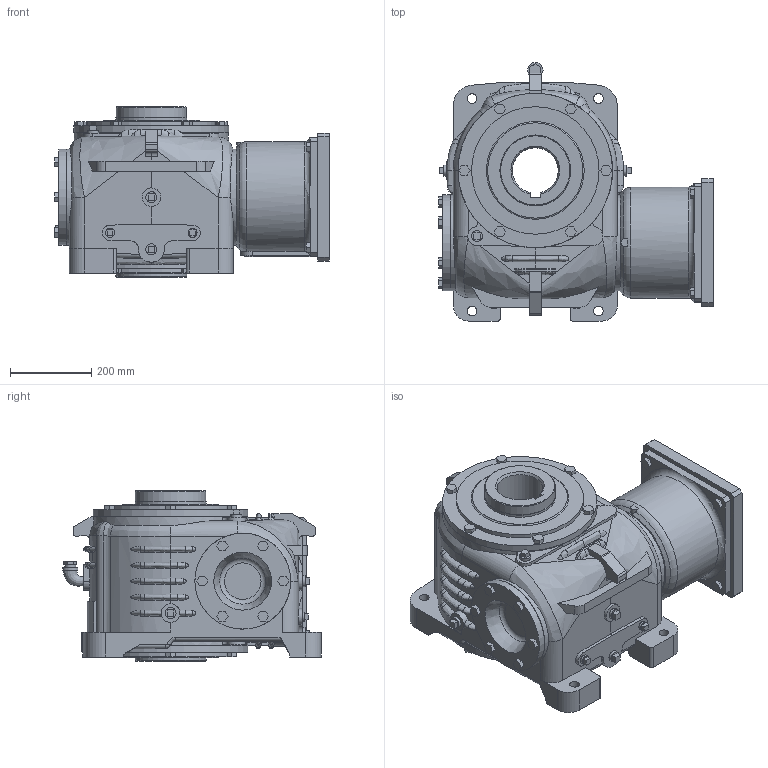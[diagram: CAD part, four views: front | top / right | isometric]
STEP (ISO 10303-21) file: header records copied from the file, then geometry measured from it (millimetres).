
FILE_DESCRIPTION(/* description */ ('Unknown'),/* implementation_level */ '2;1');
FILE_NAME(/* name */ 'V70CV-7AD01SBD-',/* time_stamp */ '2024-11-21T16:08:20-05:00',/* author */ ('Unknown'),/* organization */ ('Unknown'),/* preprocessor_version */ 'ST-DEVELOPER v19.4',/* originating_system */ 'Solid Edge',/* authorisation */ 'Unknown');
FILE_SCHEMA (('AUTOMOTIVE_DESIGN {1 0 10303 214 3 1 1}'));
Length unit declared in the file: millimetre
Products named in the file (8): V70CV-7AD01SBD-; 70-5-CP; 70-OUTHS-4437; 70-OUTH-4437; 70-WCAP; 70-SM20-4-CP; MP5D-01-CP; KM600-S-48
Assembly tree (7 placements, depth 2):
  V70CV-7AD01SBD-
    70-5-CP
    70-OUTHS-4437
    70-OUTH-4437
    70-WCAP
    70-SM20-4-CP
    MP5D-01-CP
    KM600-S-48
Bounding box: 676.57 x 638.07 x 419.1 mm (x, y, z)
Volume: 66159296 mm3; surface area: 3390072.9 mm2
Topology: 7 solids, 8 shells, 733 faces, 1824 edges, 1197 vertices
Faces by surface type: plane 450, cylinder 139, bspline 127, cone 11, torus 6
Full cylindrical faces by diameter (mm): 0.254 x5, 13.835 x4, 15.875 x8, 22.225 x2, 23.812 x10, 26.924 x6, 38.1 x1, 44.45 x1, 45.72 x3, 47.625 x1, 94.5 x1, 106.68 x1, 122 x1, 154 x1, 171.45 x1, 171.475 x1, 171.958 x1, 171.983 x1, 173.863 x3, 174.625 x4, 175.133 x2, 177.8 x1, 177.825 x1, 178.308 x1, 234.955 x2, 236.22 x3, 250 x1, 254 x1, 269.875 x2, 314.325 x2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
Entity records: 28681 total; most frequent: CARTESIAN_POINT 10198, ORIENTED_EDGE 3424, DIRECTION 3080, EDGE_CURVE 1712, VERTEX_POINT 1172, LINE 1036, VECTOR 1036, AXIS2_PLACEMENT_3D 1022
